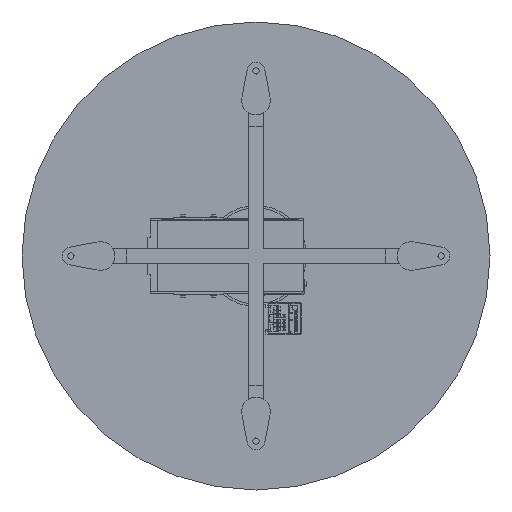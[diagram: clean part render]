
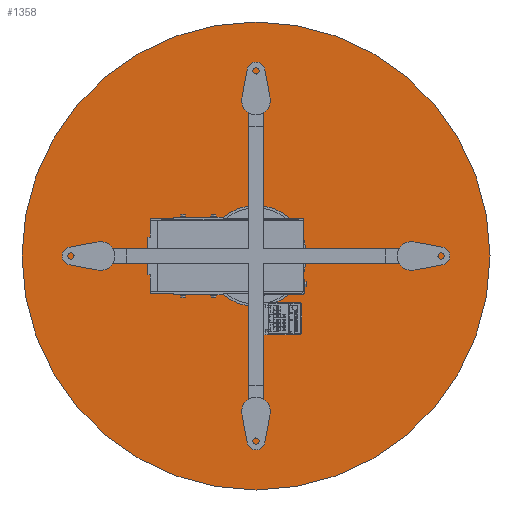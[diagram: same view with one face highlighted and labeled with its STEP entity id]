
A CAD part, front view. The second image highlights one B-rep face of the part: STEP entity #1358.
In plain terms, the highlighted planar face has unit normal (0, -1, 0).
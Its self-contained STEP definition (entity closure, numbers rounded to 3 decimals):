
#1358=ADVANCED_FACE('',(#6301,#6302),#6300,.F.);
#6300=PLANE('',#19166);
#6301=FACE_OUTER_BOUND('',#19167,.T.);
#6302=FACE_BOUND('',#19168,.T.);
#19163=CARTESIAN_POINT('',(-870.829,-5.,-1004.));
#19164=DIRECTION('',(0.,1.,0.));
#19165=DIRECTION('',(0.,0.,1.));
#19166=AXIS2_PLACEMENT_3D('',#19163,#19164,#19165);
#19167=EDGE_LOOP('',(#26852,#26853));
#19168=EDGE_LOOP('',(#26854,#26855));
#26852=ORIENTED_EDGE('',*,*,#33256,.F.);
#26853=ORIENTED_EDGE('',*,*,#33257,.F.);
#26854=ORIENTED_EDGE('',*,*,#33259,.T.);
#26855=ORIENTED_EDGE('',*,*,#33260,.T.);
#33256=EDGE_CURVE('',#42173,#42180,#42181,.T.);
#33257=EDGE_CURVE('',#42180,#42173,#42187,.T.);
#33259=EDGE_CURVE('',#42199,#42200,#42201,.T.);
#33260=EDGE_CURVE('',#42200,#42199,#42207,.T.);
#42173=VERTEX_POINT('',#65149);
#42180=VERTEX_POINT('',#65152);
#42181=CIRCLE('',#65156,497.);
#42187=CIRCLE('',#65160,497.);
#42199=VERTEX_POINT('',#65165);
#42200=VERTEX_POINT('',#65166);
#42201=CIRCLE('',#65170,107.5);
#42207=CIRCLE('',#65174,107.5);
#65149=CARTESIAN_POINT('',(0.,-5.,-497.));
#65152=CARTESIAN_POINT('',(0.,-5.,497.));
#65153=CARTESIAN_POINT('',(0.,-5.,0.));
#65154=DIRECTION('',(0.,1.,0.));
#65155=DIRECTION('',(0.,0.,1.));
#65156=AXIS2_PLACEMENT_3D('',#65153,#65154,#65155);
#65157=CARTESIAN_POINT('',(0.,-5.,0.));
#65158=DIRECTION('',(0.,1.,0.));
#65159=DIRECTION('',(0.,0.,1.));
#65160=AXIS2_PLACEMENT_3D('',#65157,#65158,#65159);
#65165=CARTESIAN_POINT('',(0.,-5.,107.5));
#65166=CARTESIAN_POINT('',(0.,-5.,-107.5));
#65167=CARTESIAN_POINT('',(0.,-5.,0.));
#65168=DIRECTION('',(0.,1.,0.));
#65169=DIRECTION('',(0.,0.,1.));
#65170=AXIS2_PLACEMENT_3D('',#65167,#65168,#65169);
#65171=CARTESIAN_POINT('',(0.,-5.,0.));
#65172=DIRECTION('',(0.,1.,0.));
#65173=DIRECTION('',(0.,0.,1.));
#65174=AXIS2_PLACEMENT_3D('',#65171,#65172,#65173);
